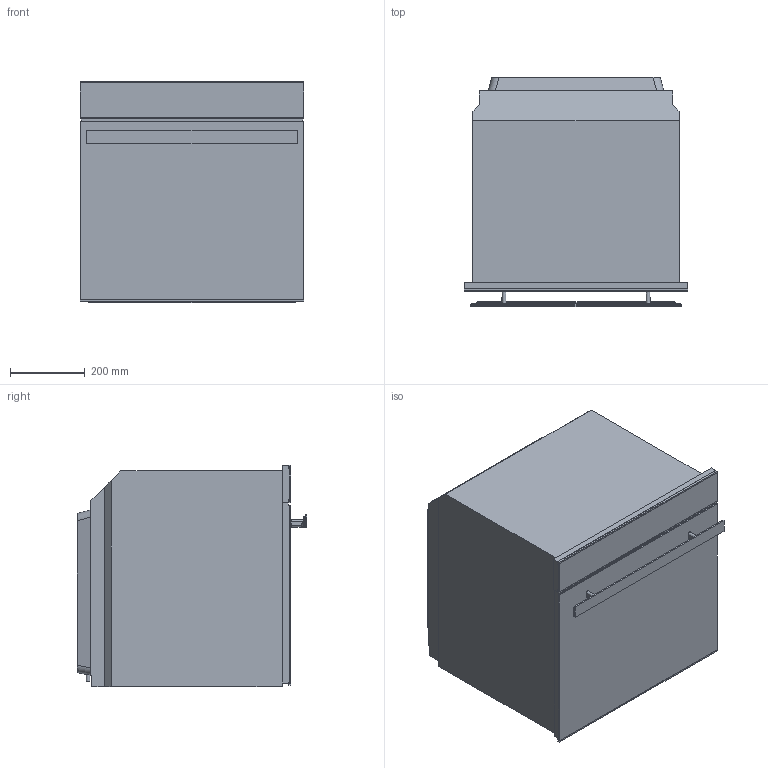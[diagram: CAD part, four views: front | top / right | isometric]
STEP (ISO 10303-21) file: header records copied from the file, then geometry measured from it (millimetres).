
FILE_DESCRIPTION(/* description */ ('Unknown'),/* implementation_level */ '2;1');
FILE_NAME(/* name */ 'SO6604S4PNR',/* time_stamp */ '2025-10-21T10:59:25+02:00',/* author */ ('Unknown'),/* organization */ ('Unknown'),/* preprocessor_version */ 'ST-DEVELOPER v16.7',/* originating_system */ 'DEX',/* authorisation */ $);
FILE_SCHEMA (('AUTOMOTIVE_DESIGN {1 0 10303 214 3 1 1}'));
Length unit declared in the file: millimetre
Products named in the file (1): SO6604S4PNR
Bounding box: 597 x 611.92 x 591.05 mm (x, y, z)
Volume: 174595119.9 mm3; surface area: 2130080.8 mm2
Topology: 5 solids, 5 shells, 105 faces, 290 edges, 196 vertices
Faces by surface type: plane 88, cylinder 13, bspline 4
Full cylindrical faces by diameter (mm): 10 x1
Entity records: 4378 total; most frequent: CARTESIAN_POINT 1141, ORIENTED_EDGE 576, DIRECTION 472, EDGE_CURVE 288, LINE 228, VECTOR 228, VERTEX_POINT 195, AXIS2_PLACEMENT_3D 122
